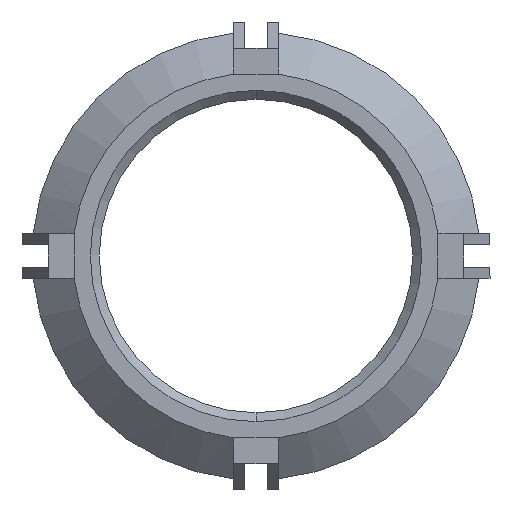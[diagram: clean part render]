
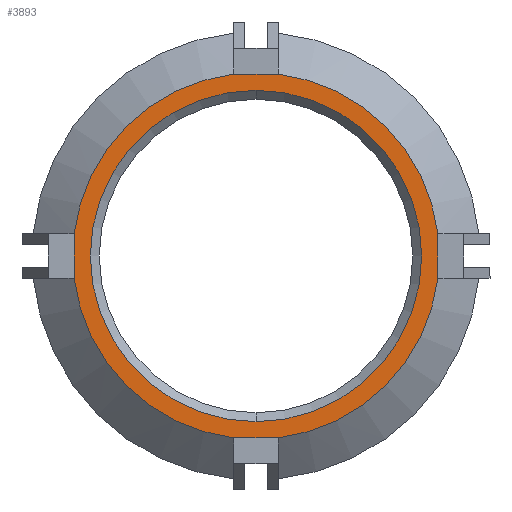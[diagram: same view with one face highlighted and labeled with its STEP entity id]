
A CAD part, front view. The second image highlights one B-rep face of the part: STEP entity #3893.
In plain terms, the highlighted planar face has unit normal (0, -1, 0).
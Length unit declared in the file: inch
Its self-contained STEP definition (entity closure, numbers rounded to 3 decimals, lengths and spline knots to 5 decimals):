
#11 = CARTESIAN_POINT ( 'NONE',  ( 0., 0., 0. ) ) ;
#34 = DIRECTION ( 'NONE',  ( 0., 0., 1. ) ) ;
#68 = ORIENTED_EDGE ( 'NONE', *, *, #3241, .F. ) ;
#111 = VECTOR ( 'NONE', #2540, 39.37008 ) ;
#115 = AXIS2_PLACEMENT_3D ( 'NONE', #2584, #1596, #1042 ) ;
#227 = VERTEX_POINT ( 'NONE', #454 ) ;
#274 = CARTESIAN_POINT ( 'NONE',  ( 0., 0., 0.23125 ) ) ;
#294 = CARTESIAN_POINT ( 'NONE',  ( 0., 0., 0. ) ) ;
#330 = VERTEX_POINT ( 'NONE', #2768 ) ;
#436 = EDGE_LOOP ( 'NONE', ( #2939, #3207 ) ) ;
#454 = CARTESIAN_POINT ( 'NONE',  ( 0.03125, 0., 0.25381 ) ) ;
#573 = CIRCLE ( 'NONE', #3365, 0.25573 ) ;
#595 = CARTESIAN_POINT ( 'NONE',  ( -0.03125, 0., -0.25381 ) ) ;
#614 = DIRECTION ( 'NONE',  ( 0., 1., 0. ) ) ;
#702 = AXIS2_PLACEMENT_3D ( 'NONE', #3570, #2994, #1301 ) ;
#708 = CIRCLE ( 'NONE', #115, 0.25573 ) ;
#750 = EDGE_CURVE ( 'NONE', #3719, #3610, #782, .T. ) ;
#782 = LINE ( 'NONE', #2054, #2696 ) ;
#837 = ORIENTED_EDGE ( 'NONE', *, *, #2138, .F. ) ;
#937 = PLANE ( 'NONE',  #979 ) ;
#949 = DIRECTION ( 'NONE',  ( 0., 1., 0. ) ) ;
#979 = AXIS2_PLACEMENT_3D ( 'NONE', #2198, #614, #2851 ) ;
#1042 = DIRECTION ( 'NONE',  ( 0., 0., -1. ) ) ;
#1064 = EDGE_CURVE ( 'NONE', #330, #3186, #2926, .T. ) ;
#1140 = CARTESIAN_POINT ( 'NONE',  ( -0.03125, 0., 0.25381 ) ) ;
#1161 = LINE ( 'NONE', #1426, #2513 ) ;
#1192 = CARTESIAN_POINT ( 'NONE',  ( -0.25381, 0., 0.03125 ) ) ;
#1211 = EDGE_CURVE ( 'NONE', #2650, #1286, #1897, .T. ) ;
#1265 = EDGE_LOOP ( 'NONE', ( #2356, #68, #1397, #1314, #4033, #3188, #1877, #837 ) ) ;
#1276 = CARTESIAN_POINT ( 'NONE',  ( 0., 0., 0. ) ) ;
#1286 = VERTEX_POINT ( 'NONE', #3014 ) ;
#1296 = CIRCLE ( 'NONE', #702, 0.23125 ) ;
#1301 = DIRECTION ( 'NONE',  ( 0., 0., 1. ) ) ;
#1314 = ORIENTED_EDGE ( 'NONE', *, *, #750, .F. ) ;
#1397 = ORIENTED_EDGE ( 'NONE', *, *, #3916, .T. ) ;
#1426 = CARTESIAN_POINT ( 'NONE',  ( 0.03125, 0., 0.25381 ) ) ;
#1466 = EDGE_CURVE ( 'NONE', #3638, #2247, #1296, .T. ) ;
#1596 = DIRECTION ( 'NONE',  ( 0., -1., 0. ) ) ;
#1877 = ORIENTED_EDGE ( 'NONE', *, *, #3716, .T. ) ;
#1897 = CIRCLE ( 'NONE', #2438, 0.25573 ) ;
#1918 = VERTEX_POINT ( 'NONE', #2498 ) ;
#2054 = CARTESIAN_POINT ( 'NONE',  ( -0.03125, 0., -0.25381 ) ) ;
#2136 = DIRECTION ( 'NONE',  ( 0., 0., -1. ) ) ;
#2138 = EDGE_CURVE ( 'NONE', #2650, #227, #1161, .T. ) ;
#2198 = CARTESIAN_POINT ( 'NONE',  ( 0., 0., 0. ) ) ;
#2235 = CARTESIAN_POINT ( 'NONE',  ( 0., 0., -0.23125 ) ) ;
#2247 = VERTEX_POINT ( 'NONE', #2235 ) ;
#2282 = EDGE_CURVE ( 'NONE', #3719, #3186, #3627, .T. ) ;
#2291 = DIRECTION ( 'NONE',  ( 0., 0., -1. ) ) ;
#2356 = ORIENTED_EDGE ( 'NONE', *, *, #1211, .T. ) ;
#2438 = AXIS2_PLACEMENT_3D ( 'NONE', #4026, #3327, #2136 ) ;
#2440 = AXIS2_PLACEMENT_3D ( 'NONE', #1276, #949, #34 ) ;
#2498 = CARTESIAN_POINT ( 'NONE',  ( -0.25381, 0., -0.03125 ) ) ;
#2513 = VECTOR ( 'NONE', #3034, 39.37008 ) ;
#2522 = FACE_BOUND ( 'NONE', #436, .T. ) ;
#2540 = DIRECTION ( 'NONE',  ( 0., 0., 1. ) ) ;
#2584 = CARTESIAN_POINT ( 'NONE',  ( 0., 0., 0. ) ) ;
#2650 = VERTEX_POINT ( 'NONE', #1140 ) ;
#2658 = DIRECTION ( 'NONE',  ( -1., 0., 0. ) ) ;
#2696 = VECTOR ( 'NONE', #2658, 39.37008 ) ;
#2768 = CARTESIAN_POINT ( 'NONE',  ( 0.25381, 0., 0.03125 ) ) ;
#2851 = DIRECTION ( 'NONE',  ( 0., 0., 1. ) ) ;
#2921 = CARTESIAN_POINT ( 'NONE',  ( 0.25381, 0., -0.03125 ) ) ;
#2926 = LINE ( 'NONE', #3798, #3419 ) ;
#2939 = ORIENTED_EDGE ( 'NONE', *, *, #3647, .T. ) ;
#2994 = DIRECTION ( 'NONE',  ( 0., 1., 0. ) ) ;
#3014 = CARTESIAN_POINT ( 'NONE',  ( -0.25381, 0., 0.03125 ) ) ;
#3034 = DIRECTION ( 'NONE',  ( 1., 0., 0. ) ) ;
#3117 = DIRECTION ( 'NONE',  ( 0., -1., 0. ) ) ;
#3118 = CARTESIAN_POINT ( 'NONE',  ( 0.03125, 0., -0.25381 ) ) ;
#3176 = DIRECTION ( 'NONE',  ( 0., 0., -1. ) ) ;
#3186 = VERTEX_POINT ( 'NONE', #2921 ) ;
#3188 = ORIENTED_EDGE ( 'NONE', *, *, #1064, .F. ) ;
#3207 = ORIENTED_EDGE ( 'NONE', *, *, #1466, .T. ) ;
#3241 = EDGE_CURVE ( 'NONE', #1918, #1286, #4034, .T. ) ;
#3327 = DIRECTION ( 'NONE',  ( 0., -1., 0. ) ) ;
#3365 = AXIS2_PLACEMENT_3D ( 'NONE', #294, #4076, #3475 ) ;
#3419 = VECTOR ( 'NONE', #2291, 39.37008 ) ;
#3475 = DIRECTION ( 'NONE',  ( 0., 0., -1. ) ) ;
#3570 = CARTESIAN_POINT ( 'NONE',  ( 0., 0., 0. ) ) ;
#3610 = VERTEX_POINT ( 'NONE', #595 ) ;
#3627 = CIRCLE ( 'NONE', #3959, 0.25573 ) ;
#3638 = VERTEX_POINT ( 'NONE', #274 ) ;
#3647 = EDGE_CURVE ( 'NONE', #2247, #3638, #3687, .T. ) ;
#3687 = CIRCLE ( 'NONE', #2440, 0.23125 ) ;
#3716 = EDGE_CURVE ( 'NONE', #330, #227, #573, .T. ) ;
#3719 = VERTEX_POINT ( 'NONE', #3118 ) ;
#3772 = FACE_OUTER_BOUND ( 'NONE', #1265, .T. ) ;
#3798 = CARTESIAN_POINT ( 'NONE',  ( 0.25381, 0., -0.03125 ) ) ;
#3893 = ADVANCED_FACE ( 'NONE', ( #2522, #3772 ), #937, .F. ) ;
#3916 = EDGE_CURVE ( 'NONE', #1918, #3610, #708, .T. ) ;
#3959 = AXIS2_PLACEMENT_3D ( 'NONE', #11, #3117, #3176 ) ;
#4026 = CARTESIAN_POINT ( 'NONE',  ( 0., 0., 0. ) ) ;
#4033 = ORIENTED_EDGE ( 'NONE', *, *, #2282, .T. ) ;
#4034 = LINE ( 'NONE', #1192, #111 ) ;
#4076 = DIRECTION ( 'NONE',  ( 0., -1., 0. ) ) ;
